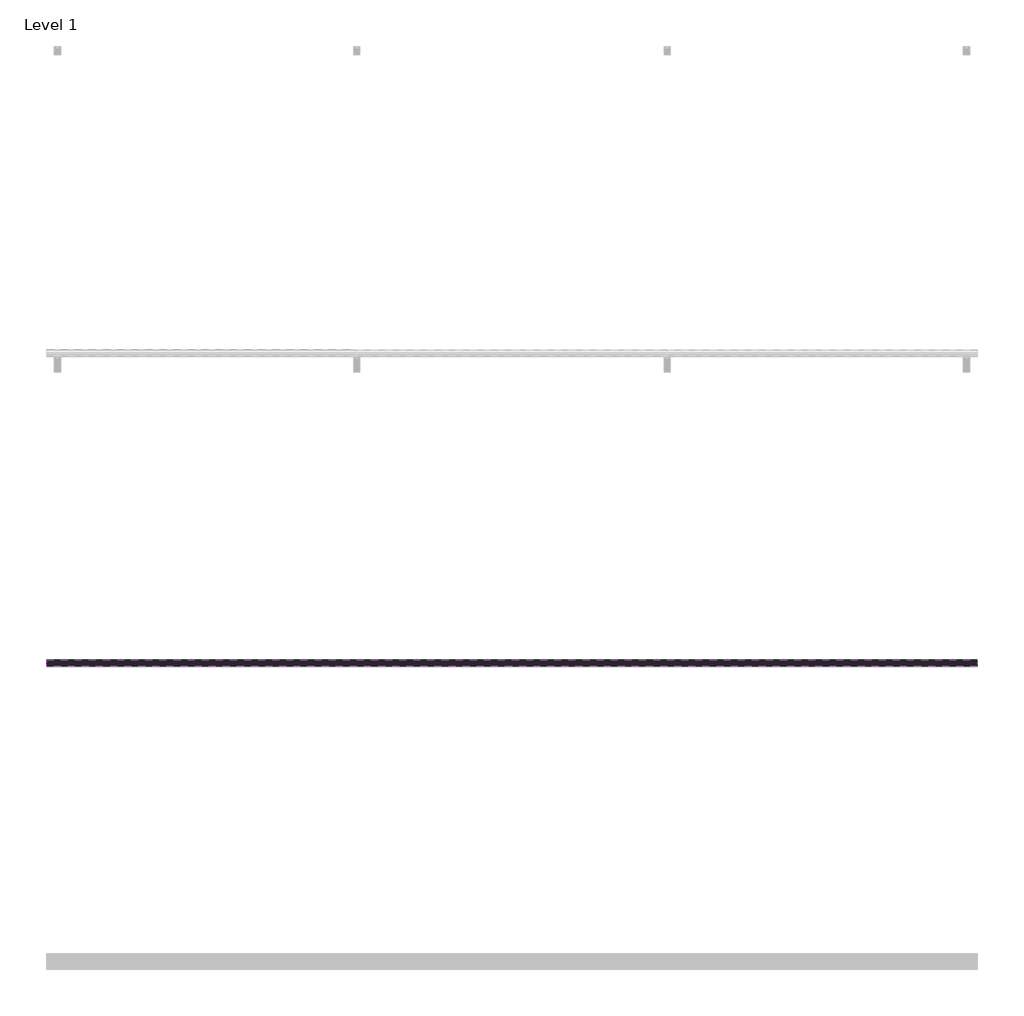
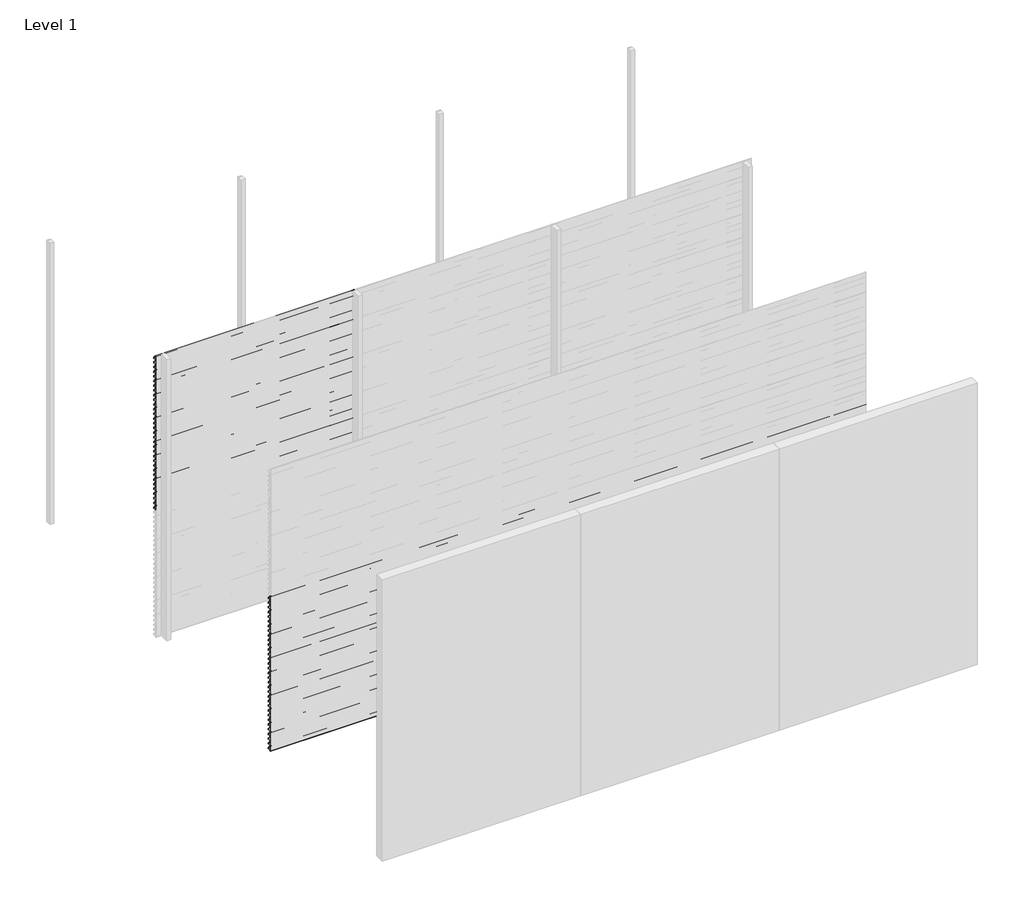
# One storey, part 14 of 38: 66 proxies.
"""IFC4 building model written with IfcOpenShell, lengths in millimetres."""

from ifc_helpers import new_model, si_unit, frame, origin, place, context, project, spatial, polyline, outline, extrude, element, save

model = new_model("IFC4")

# Units and contexts
model_context = context("Model", 3, world=origin())
ifc_project = project(units=[si_unit("LENGTHUNIT", "METRE", prefix="MILLI")], contexts=[model_context])

# Site, building, storey
site = spatial("IfcSite", under=ifc_project)
building = spatial("IfcBuilding", under=site)
storey = spatial("IfcBuildingStorey", under=building, Name="Level 1", Elevation=0.0)

# Proxies
placement = place(None, origin())
element("IfcBuildingElementProxy", 1, Name="Wall Sweeps", at=placement, inside=storey, context=model_context, shape_type="SweptSolid", body=[
    extrude(outline(polyline([(-35996.75, 3000.0), (-35996.75, 2989.19656), (-35974.6057113, 2976.4115489), (-35957.0, 2959.0472005), (-35957.0, 2944.0472005), (-35958.3, 2945.0268207), (-35958.3, 2958.5034593), (-35969.4914725, 2969.541504), (-35994.2797376, 2940.0), (-35995.9767671, 2940.0), (-35970.4200307, 2970.4573323), (-35975.3999793, 2975.3690091), (-35998.0, 2988.4171371), (-35998.0, 3000.0), (-35996.75, 3000.0)])), frame((0.0, 0.0, 0.0), z_axis=(1.0, 0.0, 0.0), x_axis=(0.0, 1.0, 0.0)), (0.0, 0.0, 1.0), 2000.0),
])
element("IfcBuildingElementProxy", 2, Name="Wall Sweeps", at=placement, inside=storey, context=model_context, shape_type="SweptSolid", body=[
    extrude(outline(polyline([(-35996.75, 2950.0), (-35996.75, 2939.19656), (-35974.6057113, 2926.4115489), (-35957.0, 2909.0472005), (-35957.0, 2894.0472005), (-35958.3, 2895.0268207), (-35958.3, 2908.5034593), (-35969.4914725, 2919.541504), (-35994.2797376, 2890.0), (-35995.9767671, 2890.0), (-35970.4200307, 2920.4573323), (-35975.3999793, 2925.3690091), (-35998.0, 2938.4171371), (-35998.0, 2950.0), (-35996.75, 2950.0)])), frame((0.0, 0.0, 0.0), z_axis=(1.0, 0.0, 0.0), x_axis=(0.0, 1.0, 0.0)), (0.0, 0.0, 1.0), 2000.0),
])
element("IfcBuildingElementProxy", 3, Name="Wall Sweeps", at=placement, inside=storey, context=model_context, shape_type="SweptSolid", body=[
    extrude(outline(polyline([(-35996.75, 2900.0), (-35996.75, 2889.19656), (-35974.6057113, 2876.4115489), (-35957.0, 2859.0472005), (-35957.0, 2844.0472005), (-35958.3, 2845.0268207), (-35958.3, 2858.5034593), (-35969.4914725, 2869.541504), (-35994.2797376, 2840.0), (-35995.9767671, 2840.0), (-35970.4200307, 2870.4573323), (-35975.3999793, 2875.3690091), (-35998.0, 2888.4171371), (-35998.0, 2900.0), (-35996.75, 2900.0)])), frame((0.0, 0.0, 0.0), z_axis=(1.0, 0.0, 0.0), x_axis=(0.0, 1.0, 0.0)), (0.0, 0.0, 1.0), 2000.0),
])
element("IfcBuildingElementProxy", 4, Name="Wall Sweeps", at=placement, inside=storey, context=model_context, shape_type="SweptSolid", body=[
    extrude(outline(polyline([(-35996.75, 2850.0), (-35996.75, 2839.19656), (-35974.6057113, 2826.4115489), (-35957.0, 2809.0472005), (-35957.0, 2794.0472005), (-35958.3, 2795.0268207), (-35958.3, 2808.5034593), (-35969.4914725, 2819.541504), (-35994.2797376, 2790.0), (-35995.9767671, 2790.0), (-35970.4200307, 2820.4573323), (-35975.3999793, 2825.3690091), (-35998.0, 2838.4171371), (-35998.0, 2850.0), (-35996.75, 2850.0)])), frame((0.0, 0.0, 0.0), z_axis=(1.0, 0.0, 0.0), x_axis=(0.0, 1.0, 0.0)), (0.0, 0.0, 1.0), 2000.0),
])
element("IfcBuildingElementProxy", 5, Name="Wall Sweeps", at=placement, inside=storey, context=model_context, shape_type="SweptSolid", body=[
    extrude(outline(polyline([(-35996.75, 2800.0), (-35996.75, 2789.19656), (-35974.6057113, 2776.4115489), (-35957.0, 2759.0472005), (-35957.0, 2744.0472005), (-35958.3, 2745.0268207), (-35958.3, 2758.5034593), (-35969.4914725, 2769.541504), (-35994.2797376, 2740.0), (-35995.9767671, 2740.0), (-35970.4200307, 2770.4573323), (-35975.3999793, 2775.3690091), (-35998.0, 2788.4171371), (-35998.0, 2800.0), (-35996.75, 2800.0)])), frame((0.0, 0.0, 0.0), z_axis=(1.0, 0.0, 0.0), x_axis=(0.0, 1.0, 0.0)), (0.0, 0.0, 1.0), 2000.0),
])
element("IfcBuildingElementProxy", 6, Name="Wall Sweeps", at=placement, inside=storey, context=model_context, shape_type="SweptSolid", body=[
    extrude(outline(polyline([(-35996.75, 2750.0), (-35996.75, 2739.19656), (-35974.6057113, 2726.4115489), (-35957.0, 2709.0472005), (-35957.0, 2694.0472005), (-35958.3, 2695.0268207), (-35958.3, 2708.5034593), (-35969.4914725, 2719.541504), (-35994.2797376, 2690.0), (-35995.9767671, 2690.0), (-35970.4200307, 2720.4573323), (-35975.3999793, 2725.3690091), (-35998.0, 2738.4171371), (-35998.0, 2750.0), (-35996.75, 2750.0)])), frame((0.0, 0.0, 0.0), z_axis=(1.0, 0.0, 0.0), x_axis=(0.0, 1.0, 0.0)), (0.0, 0.0, 1.0), 2000.0),
])
element("IfcBuildingElementProxy", 7, Name="Wall Sweeps", at=placement, inside=storey, context=model_context, shape_type="SweptSolid", body=[
    extrude(outline(polyline([(-35996.75, 2700.0), (-35996.75, 2689.19656), (-35974.6057113, 2676.4115489), (-35957.0, 2659.0472005), (-35957.0, 2644.0472005), (-35958.3, 2645.0268207), (-35958.3, 2658.5034593), (-35969.4914725, 2669.541504), (-35994.2797376, 2640.0), (-35995.9767671, 2640.0), (-35970.4200307, 2670.4573323), (-35975.3999793, 2675.3690091), (-35998.0, 2688.4171371), (-35998.0, 2700.0), (-35996.75, 2700.0)])), frame((0.0, 0.0, 0.0), z_axis=(1.0, 0.0, 0.0), x_axis=(0.0, 1.0, 0.0)), (0.0, 0.0, 1.0), 2000.0),
])
element("IfcBuildingElementProxy", 8, Name="Wall Sweeps", at=placement, inside=storey, context=model_context, shape_type="SweptSolid", body=[
    extrude(outline(polyline([(-35996.75, 2650.0), (-35996.75, 2639.19656), (-35974.6057113, 2626.4115489), (-35957.0, 2609.0472005), (-35957.0, 2594.0472005), (-35958.3, 2595.0268207), (-35958.3, 2608.5034593), (-35969.4914725, 2619.541504), (-35994.2797376, 2590.0), (-35995.9767671, 2590.0), (-35970.4200307, 2620.4573323), (-35975.3999793, 2625.3690091), (-35998.0, 2638.4171371), (-35998.0, 2650.0), (-35996.75, 2650.0)])), frame((0.0, 0.0, 0.0), z_axis=(1.0, 0.0, 0.0), x_axis=(0.0, 1.0, 0.0)), (0.0, 0.0, 1.0), 2000.0),
])
element("IfcBuildingElementProxy", 9, Name="Wall Sweeps", at=placement, inside=storey, context=model_context, shape_type="SweptSolid", body=[
    extrude(outline(polyline([(-35996.75, 2600.0), (-35996.75, 2589.19656), (-35974.6057113, 2576.4115489), (-35957.0, 2559.0472005), (-35957.0, 2544.0472005), (-35958.3, 2545.0268207), (-35958.3, 2558.5034593), (-35969.4914725, 2569.541504), (-35994.2797376, 2540.0), (-35995.9767671, 2540.0), (-35970.4200307, 2570.4573323), (-35975.3999793, 2575.3690091), (-35998.0, 2588.4171371), (-35998.0, 2600.0), (-35996.75, 2600.0)])), frame((0.0, 0.0, 0.0), z_axis=(1.0, 0.0, 0.0), x_axis=(0.0, 1.0, 0.0)), (0.0, 0.0, 1.0), 2000.0),
])
element("IfcBuildingElementProxy", 10, Name="Wall Sweeps", at=placement, inside=storey, context=model_context, shape_type="SweptSolid", body=[
    extrude(outline(polyline([(-35996.75, 2550.0), (-35996.75, 2539.19656), (-35974.6057113, 2526.4115489), (-35957.0, 2509.0472005), (-35957.0, 2494.0472005), (-35958.3, 2495.0268207), (-35958.3, 2508.5034593), (-35969.4914725, 2519.541504), (-35994.2797376, 2490.0), (-35995.9767671, 2490.0), (-35970.4200307, 2520.4573323), (-35975.3999793, 2525.3690091), (-35998.0, 2538.4171371), (-35998.0, 2550.0), (-35996.75, 2550.0)])), frame((0.0, 0.0, 0.0), z_axis=(1.0, 0.0, 0.0), x_axis=(0.0, 1.0, 0.0)), (0.0, 0.0, 1.0), 2000.0),
])
element("IfcBuildingElementProxy", 11, Name="Wall Sweeps", at=placement, inside=storey, context=model_context, shape_type="SweptSolid", body=[
    extrude(outline(polyline([(-35996.75, 2500.0), (-35996.75, 2489.19656), (-35974.6057113, 2476.4115489), (-35957.0, 2459.0472005), (-35957.0, 2444.0472005), (-35958.3, 2445.0268207), (-35958.3, 2458.5034593), (-35969.4914725, 2469.541504), (-35994.2797376, 2440.0), (-35995.9767671, 2440.0), (-35970.4200307, 2470.4573323), (-35975.3999793, 2475.3690091), (-35998.0, 2488.4171371), (-35998.0, 2500.0), (-35996.75, 2500.0)])), frame((0.0, 0.0, 0.0), z_axis=(1.0, 0.0, 0.0), x_axis=(0.0, 1.0, 0.0)), (0.0, 0.0, 1.0), 2000.0),
])
element("IfcBuildingElementProxy", 12, Name="Wall Sweeps", at=placement, inside=storey, context=model_context, shape_type="SweptSolid", body=[
    extrude(outline(polyline([(-35996.75, 2450.0), (-35996.75, 2439.19656), (-35974.6057113, 2426.4115489), (-35957.0, 2409.0472005), (-35957.0, 2394.0472005), (-35958.3, 2395.0268207), (-35958.3, 2408.5034593), (-35969.4914725, 2419.541504), (-35994.2797376, 2390.0), (-35995.9767671, 2390.0), (-35970.4200307, 2420.4573323), (-35975.3999793, 2425.3690091), (-35998.0, 2438.4171371), (-35998.0, 2450.0), (-35996.75, 2450.0)])), frame((0.0, 0.0, 0.0), z_axis=(1.0, 0.0, 0.0), x_axis=(0.0, 1.0, 0.0)), (0.0, 0.0, 1.0), 2000.0),
])
element("IfcBuildingElementProxy", 13, Name="Wall Sweeps", at=placement, inside=storey, context=model_context, shape_type="SweptSolid", body=[
    extrude(outline(polyline([(-35996.75, 2400.0), (-35996.75, 2389.19656), (-35974.6057113, 2376.4115489), (-35957.0, 2359.0472005), (-35957.0, 2344.0472005), (-35958.3, 2345.0268207), (-35958.3, 2358.5034593), (-35969.4914725, 2369.541504), (-35994.2797376, 2340.0), (-35995.9767671, 2340.0), (-35970.4200307, 2370.4573323), (-35975.3999793, 2375.3690091), (-35998.0, 2388.4171371), (-35998.0, 2400.0), (-35996.75, 2400.0)])), frame((0.0, 0.0, 0.0), z_axis=(1.0, 0.0, 0.0), x_axis=(0.0, 1.0, 0.0)), (0.0, 0.0, 1.0), 2000.0),
])
element("IfcBuildingElementProxy", 14, Name="Wall Sweeps", at=placement, inside=storey, context=model_context, shape_type="SweptSolid", body=[
    extrude(outline(polyline([(-35996.75, 2350.0), (-35996.75, 2339.19656), (-35974.6057113, 2326.4115489), (-35957.0, 2309.0472005), (-35957.0, 2294.0472005), (-35958.3, 2295.0268207), (-35958.3, 2308.5034593), (-35969.4914725, 2319.541504), (-35994.2797376, 2290.0), (-35995.9767671, 2290.0), (-35970.4200307, 2320.4573323), (-35975.3999793, 2325.3690091), (-35998.0, 2338.4171371), (-35998.0, 2350.0), (-35996.75, 2350.0)])), frame((0.0, 0.0, 0.0), z_axis=(1.0, 0.0, 0.0), x_axis=(0.0, 1.0, 0.0)), (0.0, 0.0, 1.0), 2000.0),
])
element("IfcBuildingElementProxy", 15, Name="Wall Sweeps", at=placement, inside=storey, context=model_context, shape_type="SweptSolid", body=[
    extrude(outline(polyline([(-35996.75, 2300.0), (-35996.75, 2289.19656), (-35974.6057113, 2276.4115489), (-35957.0, 2259.0472005), (-35957.0, 2244.0472005), (-35958.3, 2245.0268207), (-35958.3, 2258.5034593), (-35969.4914725, 2269.541504), (-35994.2797376, 2240.0), (-35995.9767671, 2240.0), (-35970.4200307, 2270.4573323), (-35975.3999793, 2275.3690091), (-35998.0, 2288.4171371), (-35998.0, 2300.0), (-35996.75, 2300.0)])), frame((0.0, 0.0, 0.0), z_axis=(1.0, 0.0, 0.0), x_axis=(0.0, 1.0, 0.0)), (0.0, 0.0, 1.0), 2000.0),
])
element("IfcBuildingElementProxy", 16, Name="Wall Sweeps", at=placement, inside=storey, context=model_context, shape_type="SweptSolid", body=[
    extrude(outline(polyline([(-35996.75, 2250.0), (-35996.75, 2239.19656), (-35974.6057113, 2226.4115489), (-35957.0, 2209.0472005), (-35957.0, 2194.0472005), (-35958.3, 2195.0268207), (-35958.3, 2208.5034593), (-35969.4914725, 2219.541504), (-35994.2797376, 2190.0), (-35995.9767671, 2190.0), (-35970.4200307, 2220.4573323), (-35975.3999793, 2225.3690091), (-35998.0, 2238.4171371), (-35998.0, 2250.0), (-35996.75, 2250.0)])), frame((0.0, 0.0, 0.0), z_axis=(1.0, 0.0, 0.0), x_axis=(0.0, 1.0, 0.0)), (0.0, 0.0, 1.0), 2000.0),
])
element("IfcBuildingElementProxy", 17, Name="Wall Sweeps", at=placement, inside=storey, context=model_context, shape_type="SweptSolid", body=[
    extrude(outline(polyline([(-35996.75, 2200.0), (-35996.75, 2189.19656), (-35974.6057113, 2176.4115489), (-35957.0, 2159.0472005), (-35957.0, 2144.0472005), (-35958.3, 2145.0268207), (-35958.3, 2158.5034593), (-35969.4914725, 2169.541504), (-35994.2797376, 2140.0), (-35995.9767671, 2140.0), (-35970.4200307, 2170.4573323), (-35975.3999793, 2175.3690091), (-35998.0, 2188.4171371), (-35998.0, 2200.0), (-35996.75, 2200.0)])), frame((0.0, 0.0, 0.0), z_axis=(1.0, 0.0, 0.0), x_axis=(0.0, 1.0, 0.0)), (0.0, 0.0, 1.0), 2000.0),
])
element("IfcBuildingElementProxy", 18, Name="Wall Sweeps", at=placement, inside=storey, context=model_context, shape_type="SweptSolid", body=[
    extrude(outline(polyline([(-35996.75, 2150.0), (-35996.75, 2139.19656), (-35974.6057113, 2126.4115489), (-35957.0, 2109.0472005), (-35957.0, 2094.0472005), (-35958.3, 2095.0268207), (-35958.3, 2108.5034593), (-35969.4914725, 2119.541504), (-35994.2797376, 2090.0), (-35995.9767671, 2090.0), (-35970.4200307, 2120.4573323), (-35975.3999793, 2125.3690091), (-35998.0, 2138.4171371), (-35998.0, 2150.0), (-35996.75, 2150.0)])), frame((0.0, 0.0, 0.0), z_axis=(1.0, 0.0, 0.0), x_axis=(0.0, 1.0, 0.0)), (0.0, 0.0, 1.0), 2000.0),
])
element("IfcBuildingElementProxy", 19, Name="Wall Sweeps", at=placement, inside=storey, context=model_context, shape_type="SweptSolid", body=[
    extrude(outline(polyline([(-35996.75, 2100.0), (-35996.75, 2089.19656), (-35974.6057113, 2076.4115489), (-35957.0, 2059.0472005), (-35957.0, 2044.0472005), (-35958.3, 2045.0268207), (-35958.3, 2058.5034593), (-35969.4914725, 2069.541504), (-35994.2797376, 2040.0), (-35995.9767671, 2040.0), (-35970.4200307, 2070.4573323), (-35975.3999793, 2075.3690091), (-35998.0, 2088.4171371), (-35998.0, 2100.0), (-35996.75, 2100.0)])), frame((0.0, 0.0, 0.0), z_axis=(1.0, 0.0, 0.0), x_axis=(0.0, 1.0, 0.0)), (0.0, 0.0, 1.0), 2000.0),
])
element("IfcBuildingElementProxy", 20, Name="Wall Sweeps", at=placement, inside=storey, context=model_context, shape_type="SweptSolid", body=[
    extrude(outline(polyline([(-35996.75, 2050.0), (-35996.75, 2039.19656), (-35974.6057113, 2026.4115489), (-35957.0, 2009.0472005), (-35957.0, 1994.0472005), (-35958.3, 1995.0268207), (-35958.3, 2008.5034593), (-35969.4914725, 2019.541504), (-35994.2797376, 1990.0), (-35995.9767671, 1990.0), (-35970.4200307, 2020.4573323), (-35975.3999793, 2025.3690091), (-35998.0, 2038.4171371), (-35998.0, 2050.0), (-35996.75, 2050.0)])), frame((0.0, 0.0, 0.0), z_axis=(1.0, 0.0, 0.0), x_axis=(0.0, 1.0, 0.0)), (0.0, 0.0, 1.0), 2000.0),
])
element("IfcBuildingElementProxy", 21, Name="Wall Sweeps", at=placement, inside=storey, context=model_context, shape_type="SweptSolid", body=[
    extrude(outline(polyline([(-35996.75, 2000.0), (-35996.75, 1989.19656), (-35974.6057113, 1976.4115489), (-35957.0, 1959.0472005), (-35957.0, 1944.0472005), (-35958.3, 1945.0268207), (-35958.3, 1958.5034593), (-35969.4914725, 1969.541504), (-35994.2797376, 1940.0), (-35995.9767671, 1940.0), (-35970.4200307, 1970.4573323), (-35975.3999793, 1975.3690091), (-35998.0, 1988.4171371), (-35998.0, 2000.0), (-35996.75, 2000.0)])), frame((0.0, 0.0, 0.0), z_axis=(1.0, 0.0, 0.0), x_axis=(0.0, 1.0, 0.0)), (0.0, 0.0, 1.0), 2000.0),
])
element("IfcBuildingElementProxy", 22, Name="Wall Sweeps", at=placement, inside=storey, context=model_context, shape_type="SweptSolid", body=[
    extrude(outline(polyline([(-35996.75, 1950.0), (-35996.75, 1939.19656), (-35974.6057113, 1926.4115489), (-35957.0, 1909.0472005), (-35957.0, 1894.0472005), (-35958.3, 1895.0268207), (-35958.3, 1908.5034593), (-35969.4914725, 1919.541504), (-35994.2797376, 1890.0), (-35995.9767671, 1890.0), (-35970.4200307, 1920.4573323), (-35975.3999793, 1925.3690091), (-35998.0, 1938.4171371), (-35998.0, 1950.0), (-35996.75, 1950.0)])), frame((0.0, 0.0, 0.0), z_axis=(1.0, 0.0, 0.0), x_axis=(0.0, 1.0, 0.0)), (0.0, 0.0, 1.0), 2000.0),
])
element("IfcBuildingElementProxy", 23, Name="Wall Sweeps", at=placement, inside=storey, context=model_context, shape_type="SweptSolid", body=[
    extrude(outline(polyline([(-35996.75, 1900.0), (-35996.75, 1889.19656), (-35974.6057113, 1876.4115489), (-35957.0, 1859.0472005), (-35957.0, 1844.0472005), (-35958.3, 1845.0268207), (-35958.3, 1858.5034593), (-35969.4914725, 1869.541504), (-35994.2797376, 1840.0), (-35995.9767671, 1840.0), (-35970.4200307, 1870.4573323), (-35975.3999793, 1875.3690091), (-35998.0, 1888.4171371), (-35998.0, 1900.0), (-35996.75, 1900.0)])), frame((0.0, 0.0, 0.0), z_axis=(1.0, 0.0, 0.0), x_axis=(0.0, 1.0, 0.0)), (0.0, 0.0, 1.0), 2000.0),
])
element("IfcBuildingElementProxy", 24, Name="Wall Sweeps", at=placement, inside=storey, context=model_context, shape_type="SweptSolid", body=[
    extrude(outline(polyline([(-35996.75, 1850.0), (-35996.75, 1839.19656), (-35974.6057113, 1826.4115489), (-35957.0, 1809.0472005), (-35957.0, 1794.0472005), (-35958.3, 1795.0268207), (-35958.3, 1808.5034593), (-35969.4914725, 1819.541504), (-35994.2797376, 1790.0), (-35995.9767671, 1790.0), (-35970.4200307, 1820.4573323), (-35975.3999793, 1825.3690091), (-35998.0, 1838.4171371), (-35998.0, 1850.0), (-35996.75, 1850.0)])), frame((0.0, 0.0, 0.0), z_axis=(1.0, 0.0, 0.0), x_axis=(0.0, 1.0, 0.0)), (0.0, 0.0, 1.0), 2000.0),
])
element("IfcBuildingElementProxy", 25, Name="Wall Sweeps", at=placement, inside=storey, context=model_context, shape_type="SweptSolid", body=[
    extrude(outline(polyline([(-35996.75, 1800.0), (-35996.75, 1789.19656), (-35974.6057113, 1776.4115489), (-35957.0, 1759.0472005), (-35957.0, 1744.0472005), (-35958.3, 1745.0268207), (-35958.3, 1758.5034593), (-35969.4914725, 1769.541504), (-35994.2797376, 1740.0), (-35995.9767671, 1740.0), (-35970.4200307, 1770.4573323), (-35975.3999793, 1775.3690091), (-35998.0, 1788.4171371), (-35998.0, 1800.0), (-35996.75, 1800.0)])), frame((0.0, 0.0, 0.0), z_axis=(1.0, 0.0, 0.0), x_axis=(0.0, 1.0, 0.0)), (0.0, 0.0, 1.0), 2000.0),
])
element("IfcBuildingElementProxy", 26, Name="Wall Sweeps", at=placement, inside=storey, context=model_context, shape_type="SweptSolid", body=[
    extrude(outline(polyline([(-35996.75, 1750.0), (-35996.75, 1739.19656), (-35974.6057113, 1726.4115489), (-35957.0, 1709.0472005), (-35957.0, 1694.0472005), (-35958.3, 1695.0268207), (-35958.3, 1708.5034593), (-35969.4914725, 1719.541504), (-35994.2797376, 1690.0), (-35995.9767671, 1690.0), (-35970.4200307, 1720.4573323), (-35975.3999793, 1725.3690091), (-35998.0, 1738.4171371), (-35998.0, 1750.0), (-35996.75, 1750.0)])), frame((0.0, 0.0, 0.0), z_axis=(1.0, 0.0, 0.0), x_axis=(0.0, 1.0, 0.0)), (0.0, 0.0, 1.0), 2000.0),
])
element("IfcBuildingElementProxy", 27, Name="Wall Sweeps", at=placement, inside=storey, context=model_context, shape_type="SweptSolid", body=[
    extrude(outline(polyline([(-35996.75, 1700.0), (-35996.75, 1689.19656), (-35974.6057113, 1676.4115489), (-35957.0, 1659.0472005), (-35957.0, 1644.0472005), (-35958.3, 1645.0268207), (-35958.3, 1658.5034593), (-35969.4914725, 1669.541504), (-35994.2797376, 1640.0), (-35995.9767671, 1640.0), (-35970.4200307, 1670.4573323), (-35975.3999793, 1675.3690091), (-35998.0, 1688.4171371), (-35998.0, 1700.0), (-35996.75, 1700.0)])), frame((0.0, 0.0, 0.0), z_axis=(1.0, 0.0, 0.0), x_axis=(0.0, 1.0, 0.0)), (0.0, 0.0, 1.0), 2000.0),
])
element("IfcBuildingElementProxy", 28, Name="Wall Sweeps", at=placement, inside=storey, context=model_context, shape_type="SweptSolid", body=[
    extrude(outline(polyline([(-35996.75, 1650.0), (-35996.75, 1639.19656), (-35974.6057113, 1626.4115489), (-35957.0, 1609.0472005), (-35957.0, 1594.0472005), (-35958.3, 1595.0268207), (-35958.3, 1608.5034593), (-35969.4914725, 1619.541504), (-35994.2797376, 1590.0), (-35995.9767671, 1590.0), (-35970.4200307, 1620.4573323), (-35975.3999793, 1625.3690091), (-35998.0, 1638.4171371), (-35998.0, 1650.0), (-35996.75, 1650.0)])), frame((0.0, 0.0, 0.0), z_axis=(1.0, 0.0, 0.0), x_axis=(0.0, 1.0, 0.0)), (0.0, 0.0, 1.0), 2000.0),
])
element("IfcBuildingElementProxy", 29, Name="Wall Sweeps", at=placement, inside=storey, context=model_context, shape_type="SweptSolid", body=[
    extrude(outline(polyline([(-35996.75, 1600.0), (-35996.75, 1589.19656), (-35974.6057113, 1576.4115489), (-35957.0, 1559.0472005), (-35957.0, 1544.0472005), (-35958.3, 1545.0268207), (-35958.3, 1558.5034593), (-35969.4914725, 1569.541504), (-35994.2797376, 1540.0), (-35995.9767671, 1540.0), (-35970.4200307, 1570.4573323), (-35975.3999793, 1575.3690091), (-35998.0, 1588.4171371), (-35998.0, 1600.0), (-35996.75, 1600.0)])), frame((0.0, 0.0, 0.0), z_axis=(1.0, 0.0, 0.0), x_axis=(0.0, 1.0, 0.0)), (0.0, 0.0, 1.0), 2000.0),
])
element("IfcBuildingElementProxy", 30, Name="Wall Sweeps", at=placement, inside=storey, context=model_context, shape_type="SweptSolid", body=[
    extrude(outline(polyline([(-35996.75, 1550.0), (-35996.75, 1539.19656), (-35974.6057113, 1526.4115489), (-35957.0, 1509.0472005), (-35957.0, 1494.0472005), (-35958.3, 1495.0268207), (-35958.3, 1508.5034593), (-35969.4914725, 1519.541504), (-35994.2797376, 1490.0), (-35995.9767671, 1490.0), (-35970.4200307, 1520.4573323), (-35975.3999793, 1525.3690091), (-35998.0, 1538.4171371), (-35998.0, 1550.0), (-35996.75, 1550.0)])), frame((0.0, 0.0, 0.0), z_axis=(1.0, 0.0, 0.0), x_axis=(0.0, 1.0, 0.0)), (0.0, 0.0, 1.0), 2000.0),
])
element("IfcBuildingElementProxy", 31, Name="Wall Sweeps", at=placement, inside=storey, context=model_context, shape_type="SweptSolid", body=[
    extrude(outline(polyline([(-35996.75, 1500.0), (-35996.75, 1489.19656), (-35974.6057113, 1476.4115489), (-35957.0, 1459.0472005), (-35957.0, 1444.0472005), (-35958.3, 1445.0268207), (-35958.3, 1458.5034593), (-35969.4914725, 1469.541504), (-35994.2797376, 1440.0), (-35995.9767671, 1440.0), (-35970.4200307, 1470.4573323), (-35975.3999793, 1475.3690091), (-35998.0, 1488.4171371), (-35998.0, 1500.0), (-35996.75, 1500.0)])), frame((0.0, 0.0, 0.0), z_axis=(1.0, 0.0, 0.0), x_axis=(0.0, 1.0, 0.0)), (0.0, 0.0, 1.0), 2000.0),
])
element("IfcBuildingElementProxy", 32, Name="Wall Sweeps", at=placement, inside=storey, context=model_context, shape_type="SweptSolid", body=[
    extrude(outline(polyline([(-35996.75, 1450.0), (-35996.75, 1439.19656), (-35974.6057113, 1426.4115489), (-35957.0, 1409.0472005), (-35957.0, 1394.0472005), (-35958.3, 1395.0268207), (-35958.3, 1408.5034593), (-35969.4914725, 1419.541504), (-35994.2797376, 1390.0), (-35995.9767671, 1390.0), (-35970.4200307, 1420.4573323), (-35975.3999793, 1425.3690091), (-35998.0, 1438.4171371), (-35998.0, 1450.0), (-35996.75, 1450.0)])), frame((0.0, 0.0, 0.0), z_axis=(1.0, 0.0, 0.0), x_axis=(0.0, 1.0, 0.0)), (0.0, 0.0, 1.0), 2000.0),
])
element("IfcBuildingElementProxy", 33, Name="Wall Sweeps", at=placement, inside=storey, context=model_context, shape_type="SweptSolid", body=[
    extrude(outline(polyline([(-35996.75, 1400.0), (-35996.75, 1389.19656), (-35974.6057113, 1376.4115489), (-35957.0, 1359.0472005), (-35957.0, 1344.0472005), (-35958.3, 1345.0268207), (-35958.3, 1358.5034593), (-35969.4914725, 1369.541504), (-35994.2797376, 1340.0), (-35995.9767671, 1340.0), (-35970.4200307, 1370.4573323), (-35975.3999793, 1375.3690091), (-35998.0, 1388.4171371), (-35998.0, 1400.0), (-35996.75, 1400.0)])), frame((0.0, 0.0, 0.0), z_axis=(1.0, 0.0, 0.0), x_axis=(0.0, 1.0, 0.0)), (0.0, 0.0, 1.0), 2000.0),
])
element("IfcBuildingElementProxy", 34, Name="Wall Sweeps", at=placement, inside=storey, context=model_context, shape_type="SweptSolid", body=[
    extrude(outline(polyline([(-37996.75, 1650.0), (-37996.75, 1639.19656), (-37974.6057113, 1626.4115489), (-37957.0, 1609.0472005), (-37957.0, 1594.0472005), (-37958.3, 1595.0268207), (-37958.3, 1608.5034593), (-37969.4914725, 1619.541504), (-37994.2797376, 1590.0), (-37995.9767671, 1590.0), (-37970.4200307, 1620.4573323), (-37975.3999793, 1625.3690091), (-37998.0, 1638.4171371), (-37998.0, 1650.0), (-37996.75, 1650.0)])), frame((0.0, 0.0, 0.0), z_axis=(1.0, 0.0, 0.0), x_axis=(0.0, 1.0, 0.0)), (0.0, 0.0, 1.0), 6000.0),
])
element("IfcBuildingElementProxy", 35, Name="Wall Sweeps", at=placement, inside=storey, context=model_context, shape_type="SweptSolid", body=[
    extrude(outline(polyline([(-37996.75, 1600.0), (-37996.75, 1589.19656), (-37974.6057113, 1576.4115489), (-37957.0, 1559.0472005), (-37957.0, 1544.0472005), (-37958.3, 1545.0268207), (-37958.3, 1558.5034593), (-37969.4914725, 1569.541504), (-37994.2797376, 1540.0), (-37995.9767671, 1540.0), (-37970.4200307, 1570.4573323), (-37975.3999793, 1575.3690091), (-37998.0, 1588.4171371), (-37998.0, 1600.0), (-37996.75, 1600.0)])), frame((0.0, 0.0, 0.0), z_axis=(1.0, 0.0, 0.0), x_axis=(0.0, 1.0, 0.0)), (0.0, 0.0, 1.0), 6000.0),
])
element("IfcBuildingElementProxy", 36, Name="Wall Sweeps", at=placement, inside=storey, context=model_context, shape_type="SweptSolid", body=[
    extrude(outline(polyline([(-37996.75, 1550.0), (-37996.75, 1539.19656), (-37974.6057113, 1526.4115489), (-37957.0, 1509.0472005), (-37957.0, 1494.0472005), (-37958.3, 1495.0268207), (-37958.3, 1508.5034593), (-37969.4914725, 1519.541504), (-37994.2797376, 1490.0), (-37995.9767671, 1490.0), (-37970.4200307, 1520.4573323), (-37975.3999793, 1525.3690091), (-37998.0, 1538.4171371), (-37998.0, 1550.0), (-37996.75, 1550.0)])), frame((0.0, 0.0, 0.0), z_axis=(1.0, 0.0, 0.0), x_axis=(0.0, 1.0, 0.0)), (0.0, 0.0, 1.0), 6000.0),
])
element("IfcBuildingElementProxy", 37, Name="Wall Sweeps", at=placement, inside=storey, context=model_context, shape_type="SweptSolid", body=[
    extrude(outline(polyline([(-37996.75, 1500.0), (-37996.75, 1489.19656), (-37974.6057113, 1476.4115489), (-37957.0, 1459.0472005), (-37957.0, 1444.0472005), (-37958.3, 1445.0268207), (-37958.3, 1458.5034593), (-37969.4914725, 1469.541504), (-37994.2797376, 1440.0), (-37995.9767671, 1440.0), (-37970.4200307, 1470.4573323), (-37975.3999793, 1475.3690091), (-37998.0, 1488.4171371), (-37998.0, 1500.0), (-37996.75, 1500.0)])), frame((0.0, 0.0, 0.0), z_axis=(1.0, 0.0, 0.0), x_axis=(0.0, 1.0, 0.0)), (0.0, 0.0, 1.0), 6000.0),
])
element("IfcBuildingElementProxy", 38, Name="Wall Sweeps", at=placement, inside=storey, context=model_context, shape_type="SweptSolid", body=[
    extrude(outline(polyline([(-37996.75, 1450.0), (-37996.75, 1439.19656), (-37974.6057113, 1426.4115489), (-37957.0, 1409.0472005), (-37957.0, 1394.0472005), (-37958.3, 1395.0268207), (-37958.3, 1408.5034593), (-37969.4914725, 1419.541504), (-37994.2797376, 1390.0), (-37995.9767671, 1390.0), (-37970.4200307, 1420.4573323), (-37975.3999793, 1425.3690091), (-37998.0, 1438.4171371), (-37998.0, 1450.0), (-37996.75, 1450.0)])), frame((0.0, 0.0, 0.0), z_axis=(1.0, 0.0, 0.0), x_axis=(0.0, 1.0, 0.0)), (0.0, 0.0, 1.0), 6000.0),
])
element("IfcBuildingElementProxy", 39, Name="Wall Sweeps", at=placement, inside=storey, context=model_context, shape_type="SweptSolid", body=[
    extrude(outline(polyline([(-37996.75, 1400.0), (-37996.75, 1389.19656), (-37974.6057113, 1376.4115489), (-37957.0, 1359.0472005), (-37957.0, 1344.0472005), (-37958.3, 1345.0268207), (-37958.3, 1358.5034593), (-37969.4914725, 1369.541504), (-37994.2797376, 1340.0), (-37995.9767671, 1340.0), (-37970.4200307, 1370.4573323), (-37975.3999793, 1375.3690091), (-37998.0, 1388.4171371), (-37998.0, 1400.0), (-37996.75, 1400.0)])), frame((0.0, 0.0, 0.0), z_axis=(1.0, 0.0, 0.0), x_axis=(0.0, 1.0, 0.0)), (0.0, 0.0, 1.0), 6000.0),
])
element("IfcBuildingElementProxy", 40, Name="Wall Sweeps", at=placement, inside=storey, context=model_context, shape_type="SweptSolid", body=[
    extrude(outline(polyline([(-37996.75, 1350.0), (-37996.75, 1339.19656), (-37974.6057113, 1326.4115489), (-37957.0, 1309.0472005), (-37957.0, 1294.0472005), (-37958.3, 1295.0268207), (-37958.3, 1308.5034593), (-37969.4914725, 1319.541504), (-37994.2797376, 1290.0), (-37995.9767671, 1290.0), (-37970.4200307, 1320.4573323), (-37975.3999793, 1325.3690091), (-37998.0, 1338.4171371), (-37998.0, 1350.0), (-37996.75, 1350.0)])), frame((0.0, 0.0, 0.0), z_axis=(1.0, 0.0, 0.0), x_axis=(0.0, 1.0, 0.0)), (0.0, 0.0, 1.0), 6000.0),
])
element("IfcBuildingElementProxy", 41, Name="Wall Sweeps", at=placement, inside=storey, context=model_context, shape_type="SweptSolid", body=[
    extrude(outline(polyline([(-37996.75, 1300.0), (-37996.75, 1289.19656), (-37974.6057113, 1276.4115489), (-37957.0, 1259.0472005), (-37957.0, 1244.0472005), (-37958.3, 1245.0268207), (-37958.3, 1258.5034593), (-37969.4914725, 1269.541504), (-37994.2797376, 1240.0), (-37995.9767671, 1240.0), (-37970.4200307, 1270.4573323), (-37975.3999793, 1275.3690091), (-37998.0, 1288.4171371), (-37998.0, 1300.0), (-37996.75, 1300.0)])), frame((0.0, 0.0, 0.0), z_axis=(1.0, 0.0, 0.0), x_axis=(0.0, 1.0, 0.0)), (0.0, 0.0, 1.0), 6000.0),
])
element("IfcBuildingElementProxy", 42, Name="Wall Sweeps", at=placement, inside=storey, context=model_context, shape_type="SweptSolid", body=[
    extrude(outline(polyline([(-37996.75, 1250.0), (-37996.75, 1239.19656), (-37974.6057113, 1226.4115489), (-37957.0, 1209.0472005), (-37957.0, 1194.0472005), (-37958.3, 1195.0268207), (-37958.3, 1208.5034593), (-37969.4914725, 1219.541504), (-37994.2797376, 1190.0), (-37995.9767671, 1190.0), (-37970.4200307, 1220.4573323), (-37975.3999793, 1225.3690091), (-37998.0, 1238.4171371), (-37998.0, 1250.0), (-37996.75, 1250.0)])), frame((0.0, 0.0, 0.0), z_axis=(1.0, 0.0, 0.0), x_axis=(0.0, 1.0, 0.0)), (0.0, 0.0, 1.0), 6000.0),
])
element("IfcBuildingElementProxy", 43, Name="Wall Sweeps", at=placement, inside=storey, context=model_context, shape_type="SweptSolid", body=[
    extrude(outline(polyline([(-37996.75, 1200.0), (-37996.75, 1189.19656), (-37974.6057113, 1176.4115489), (-37957.0, 1159.0472005), (-37957.0, 1144.0472005), (-37958.3, 1145.0268207), (-37958.3, 1158.5034593), (-37969.4914725, 1169.541504), (-37994.2797376, 1140.0), (-37995.9767671, 1140.0), (-37970.4200307, 1170.4573323), (-37975.3999793, 1175.3690091), (-37998.0, 1188.4171371), (-37998.0, 1200.0), (-37996.75, 1200.0)])), frame((0.0, 0.0, 0.0), z_axis=(1.0, 0.0, 0.0), x_axis=(0.0, 1.0, 0.0)), (0.0, 0.0, 1.0), 6000.0),
])
element("IfcBuildingElementProxy", 44, Name="Wall Sweeps", at=placement, inside=storey, context=model_context, shape_type="SweptSolid", body=[
    extrude(outline(polyline([(-37996.75, 1150.0), (-37996.75, 1139.19656), (-37974.6057113, 1126.4115489), (-37957.0, 1109.0472005), (-37957.0, 1094.0472005), (-37958.3, 1095.0268207), (-37958.3, 1108.5034593), (-37969.4914725, 1119.541504), (-37994.2797376, 1090.0), (-37995.9767671, 1090.0), (-37970.4200307, 1120.4573323), (-37975.3999793, 1125.3690091), (-37998.0, 1138.4171371), (-37998.0, 1150.0), (-37996.75, 1150.0)])), frame((0.0, 0.0, 0.0), z_axis=(1.0, 0.0, 0.0), x_axis=(0.0, 1.0, 0.0)), (0.0, 0.0, 1.0), 6000.0),
])
element("IfcBuildingElementProxy", 45, Name="Wall Sweeps", at=placement, inside=storey, context=model_context, shape_type="SweptSolid", body=[
    extrude(outline(polyline([(-37996.75, 1100.0), (-37996.75, 1089.19656), (-37974.6057113, 1076.4115489), (-37957.0, 1059.0472005), (-37957.0, 1044.0472005), (-37958.3, 1045.0268207), (-37958.3, 1058.5034593), (-37969.4914725, 1069.541504), (-37994.2797376, 1040.0), (-37995.9767671, 1040.0), (-37970.4200307, 1070.4573323), (-37975.3999793, 1075.3690091), (-37998.0, 1088.4171371), (-37998.0, 1100.0), (-37996.75, 1100.0)])), frame((0.0, 0.0, 0.0), z_axis=(1.0, 0.0, 0.0), x_axis=(0.0, 1.0, 0.0)), (0.0, 0.0, 1.0), 6000.0),
])
element("IfcBuildingElementProxy", 46, Name="Wall Sweeps", at=placement, inside=storey, context=model_context, shape_type="SweptSolid", body=[
    extrude(outline(polyline([(-37996.75, 1050.0), (-37996.75, 1039.19656), (-37974.6057113, 1026.4115489), (-37957.0, 1009.0472005), (-37957.0, 994.0472005), (-37958.3, 995.0268207), (-37958.3, 1008.5034593), (-37969.4914725, 1019.541504), (-37994.2797376, 990.0), (-37995.9767671, 990.0), (-37970.4200307, 1020.4573323), (-37975.3999793, 1025.3690091), (-37998.0, 1038.4171371), (-37998.0, 1050.0), (-37996.75, 1050.0)])), frame((0.0, 0.0, 0.0), z_axis=(1.0, 0.0, 0.0), x_axis=(0.0, 1.0, 0.0)), (0.0, 0.0, 1.0), 6000.0),
])
element("IfcBuildingElementProxy", 47, Name="Wall Sweeps", at=placement, inside=storey, context=model_context, shape_type="SweptSolid", body=[
    extrude(outline(polyline([(-37996.75, 1000.0), (-37996.75, 989.19656), (-37974.6057113, 976.4115489), (-37957.0, 959.0472005), (-37957.0, 944.0472005), (-37958.3, 945.0268207), (-37958.3, 958.5034593), (-37969.4914725, 969.541504), (-37994.2797376, 940.0), (-37995.9767671, 940.0), (-37970.4200307, 970.4573323), (-37975.3999793, 975.3690091), (-37998.0, 988.4171371), (-37998.0, 1000.0), (-37996.75, 1000.0)])), frame((0.0, 0.0, 0.0), z_axis=(1.0, 0.0, 0.0), x_axis=(0.0, 1.0, 0.0)), (0.0, 0.0, 1.0), 6000.0),
])
element("IfcBuildingElementProxy", 48, Name="Wall Sweeps", at=placement, inside=storey, context=model_context, shape_type="SweptSolid", body=[
    extrude(outline(polyline([(-37996.75, 950.0), (-37996.75, 939.19656), (-37974.6057113, 926.4115489), (-37957.0, 909.0472005), (-37957.0, 894.0472005), (-37958.3, 895.0268207), (-37958.3, 908.5034593), (-37969.4914725, 919.541504), (-37994.2797376, 890.0), (-37995.9767671, 890.0), (-37970.4200307, 920.4573323), (-37975.3999793, 925.3690091), (-37998.0, 938.4171371), (-37998.0, 950.0), (-37996.75, 950.0)])), frame((0.0, 0.0, 0.0), z_axis=(1.0, 0.0, 0.0), x_axis=(0.0, 1.0, 0.0)), (0.0, 0.0, 1.0), 6000.0),
])
element("IfcBuildingElementProxy", 49, Name="Wall Sweeps", at=placement, inside=storey, context=model_context, shape_type="SweptSolid", body=[
    extrude(outline(polyline([(-37996.75, 900.0), (-37996.75, 889.19656), (-37974.6057113, 876.4115489), (-37957.0, 859.0472005), (-37957.0, 844.0472005), (-37958.3, 845.0268207), (-37958.3, 858.5034593), (-37969.4914725, 869.541504), (-37994.2797376, 840.0), (-37995.9767671, 840.0), (-37970.4200307, 870.4573323), (-37975.3999793, 875.3690091), (-37998.0, 888.4171371), (-37998.0, 900.0), (-37996.75, 900.0)])), frame((0.0, 0.0, 0.0), z_axis=(1.0, 0.0, 0.0), x_axis=(0.0, 1.0, 0.0)), (0.0, 0.0, 1.0), 6000.0),
])
element("IfcBuildingElementProxy", 50, Name="Wall Sweeps", at=placement, inside=storey, context=model_context, shape_type="SweptSolid", body=[
    extrude(outline(polyline([(-37996.75, 850.0), (-37996.75, 839.19656), (-37974.6057113, 826.4115489), (-37957.0, 809.0472005), (-37957.0, 794.0472005), (-37958.3, 795.0268207), (-37958.3, 808.5034593), (-37969.4914725, 819.541504), (-37994.2797376, 790.0), (-37995.9767671, 790.0), (-37970.4200307, 820.4573323), (-37975.3999793, 825.3690091), (-37998.0, 838.4171371), (-37998.0, 850.0), (-37996.75, 850.0)])), frame((0.0, 0.0, 0.0), z_axis=(1.0, 0.0, 0.0), x_axis=(0.0, 1.0, 0.0)), (0.0, 0.0, 1.0), 6000.0),
])
element("IfcBuildingElementProxy", 51, Name="Wall Sweeps", at=placement, inside=storey, context=model_context, shape_type="SweptSolid", body=[
    extrude(outline(polyline([(-37996.75, 800.0), (-37996.75, 789.19656), (-37974.6057113, 776.4115489), (-37957.0, 759.0472005), (-37957.0, 744.0472005), (-37958.3, 745.0268207), (-37958.3, 758.5034593), (-37969.4914725, 769.541504), (-37994.2797376, 740.0), (-37995.9767671, 740.0), (-37970.4200307, 770.4573323), (-37975.3999793, 775.3690091), (-37998.0, 788.4171371), (-37998.0, 800.0), (-37996.75, 800.0)])), frame((0.0, 0.0, 0.0), z_axis=(1.0, 0.0, 0.0), x_axis=(0.0, 1.0, 0.0)), (0.0, 0.0, 1.0), 6000.0),
])
element("IfcBuildingElementProxy", 52, Name="Wall Sweeps", at=placement, inside=storey, context=model_context, shape_type="SweptSolid", body=[
    extrude(outline(polyline([(-37996.75, 750.0), (-37996.75, 739.19656), (-37974.6057113, 726.4115489), (-37957.0, 709.0472005), (-37957.0, 694.0472005), (-37958.3, 695.0268207), (-37958.3, 708.5034593), (-37969.4914725, 719.541504), (-37994.2797376, 690.0), (-37995.9767671, 690.0), (-37970.4200307, 720.4573323), (-37975.3999793, 725.3690091), (-37998.0, 738.4171371), (-37998.0, 750.0), (-37996.75, 750.0)])), frame((0.0, 0.0, 0.0), z_axis=(1.0, 0.0, 0.0), x_axis=(0.0, 1.0, 0.0)), (0.0, 0.0, 1.0), 6000.0),
])
element("IfcBuildingElementProxy", 53, Name="Wall Sweeps", at=placement, inside=storey, context=model_context, shape_type="SweptSolid", body=[
    extrude(outline(polyline([(-37996.75, 700.0), (-37996.75, 689.19656), (-37974.6057113, 676.4115489), (-37957.0, 659.0472005), (-37957.0, 644.0472005), (-37958.3, 645.0268207), (-37958.3, 658.5034593), (-37969.4914725, 669.541504), (-37994.2797376, 640.0), (-37995.9767671, 640.0), (-37970.4200307, 670.4573323), (-37975.3999793, 675.3690091), (-37998.0, 688.4171371), (-37998.0, 700.0), (-37996.75, 700.0)])), frame((0.0, 0.0, 0.0), z_axis=(1.0, 0.0, 0.0), x_axis=(0.0, 1.0, 0.0)), (0.0, 0.0, 1.0), 6000.0),
])
element("IfcBuildingElementProxy", 54, Name="Wall Sweeps", at=placement, inside=storey, context=model_context, shape_type="SweptSolid", body=[
    extrude(outline(polyline([(-37996.75, 650.0), (-37996.75, 639.19656), (-37974.6057113, 626.4115489), (-37957.0, 609.0472005), (-37957.0, 594.0472005), (-37958.3, 595.0268207), (-37958.3, 608.5034593), (-37969.4914725, 619.541504), (-37994.2797376, 590.0), (-37995.9767671, 590.0), (-37970.4200307, 620.4573323), (-37975.3999793, 625.3690091), (-37998.0, 638.4171371), (-37998.0, 650.0), (-37996.75, 650.0)])), frame((0.0, 0.0, 0.0), z_axis=(1.0, 0.0, 0.0), x_axis=(0.0, 1.0, 0.0)), (0.0, 0.0, 1.0), 6000.0),
])
element("IfcBuildingElementProxy", 55, Name="Wall Sweeps", at=placement, inside=storey, context=model_context, shape_type="SweptSolid", body=[
    extrude(outline(polyline([(-37996.75, 600.0), (-37996.75, 589.19656), (-37974.6057113, 576.4115489), (-37957.0, 559.0472005), (-37957.0, 544.0472005), (-37958.3, 545.0268207), (-37958.3, 558.5034593), (-37969.4914725, 569.541504), (-37994.2797376, 540.0), (-37995.9767671, 540.0), (-37970.4200307, 570.4573323), (-37975.3999793, 575.3690091), (-37998.0, 588.4171371), (-37998.0, 600.0), (-37996.75, 600.0)])), frame((0.0, 0.0, 0.0), z_axis=(1.0, 0.0, 0.0), x_axis=(0.0, 1.0, 0.0)), (0.0, 0.0, 1.0), 6000.0),
])
element("IfcBuildingElementProxy", 56, Name="Wall Sweeps", at=placement, inside=storey, context=model_context, shape_type="SweptSolid", body=[
    extrude(outline(polyline([(-37996.75, 550.0), (-37996.75, 539.19656), (-37974.6057113, 526.4115489), (-37957.0, 509.0472005), (-37957.0, 494.0472005), (-37958.3, 495.0268207), (-37958.3, 508.5034593), (-37969.4914725, 519.541504), (-37994.2797376, 490.0), (-37995.9767671, 490.0), (-37970.4200307, 520.4573323), (-37975.3999793, 525.3690091), (-37998.0, 538.4171371), (-37998.0, 550.0), (-37996.75, 550.0)])), frame((0.0, 0.0, 0.0), z_axis=(1.0, 0.0, 0.0), x_axis=(0.0, 1.0, 0.0)), (0.0, 0.0, 1.0), 6000.0),
])
element("IfcBuildingElementProxy", 57, Name="Wall Sweeps", at=placement, inside=storey, context=model_context, shape_type="SweptSolid", body=[
    extrude(outline(polyline([(-37996.75, 500.0), (-37996.75, 489.19656), (-37974.6057113, 476.4115489), (-37957.0, 459.0472005), (-37957.0, 444.0472005), (-37958.3, 445.0268207), (-37958.3, 458.5034593), (-37969.4914725, 469.541504), (-37994.2797376, 440.0), (-37995.9767671, 440.0), (-37970.4200307, 470.4573323), (-37975.3999793, 475.3690091), (-37998.0, 488.4171371), (-37998.0, 500.0), (-37996.75, 500.0)])), frame((0.0, 0.0, 0.0), z_axis=(1.0, 0.0, 0.0), x_axis=(0.0, 1.0, 0.0)), (0.0, 0.0, 1.0), 6000.0),
])
element("IfcBuildingElementProxy", 58, Name="Wall Sweeps", at=placement, inside=storey, context=model_context, shape_type="SweptSolid", body=[
    extrude(outline(polyline([(-37996.75, 450.0), (-37996.75, 439.19656), (-37974.6057113, 426.4115489), (-37957.0, 409.0472005), (-37957.0, 394.0472005), (-37958.3, 395.0268207), (-37958.3, 408.5034593), (-37969.4914725, 419.541504), (-37994.2797376, 390.0), (-37995.9767671, 390.0), (-37970.4200307, 420.4573323), (-37975.3999793, 425.3690091), (-37998.0, 438.4171371), (-37998.0, 450.0), (-37996.75, 450.0)])), frame((0.0, 0.0, 0.0), z_axis=(1.0, 0.0, 0.0), x_axis=(0.0, 1.0, 0.0)), (0.0, 0.0, 1.0), 6000.0),
])
element("IfcBuildingElementProxy", 59, Name="Wall Sweeps", at=placement, inside=storey, context=model_context, shape_type="SweptSolid", body=[
    extrude(outline(polyline([(-37996.75, 400.0), (-37996.75, 389.19656), (-37974.6057113, 376.4115489), (-37957.0, 359.0472005), (-37957.0, 344.0472005), (-37958.3, 345.0268207), (-37958.3, 358.5034593), (-37969.4914725, 369.541504), (-37994.2797376, 340.0), (-37995.9767671, 340.0), (-37970.4200307, 370.4573323), (-37975.3999793, 375.3690091), (-37998.0, 388.4171371), (-37998.0, 400.0), (-37996.75, 400.0)])), frame((0.0, 0.0, 0.0), z_axis=(1.0, 0.0, 0.0), x_axis=(0.0, 1.0, 0.0)), (0.0, 0.0, 1.0), 6000.0),
])
element("IfcBuildingElementProxy", 60, Name="Wall Sweeps", at=placement, inside=storey, context=model_context, shape_type="SweptSolid", body=[
    extrude(outline(polyline([(-37996.75, 350.0), (-37996.75, 339.19656), (-37974.6057113, 326.4115489), (-37957.0, 309.0472005), (-37957.0, 294.0472005), (-37958.3, 295.0268207), (-37958.3, 308.5034593), (-37969.4914725, 319.541504), (-37994.2797376, 290.0), (-37995.9767671, 290.0), (-37970.4200307, 320.4573323), (-37975.3999793, 325.3690091), (-37998.0, 338.4171371), (-37998.0, 350.0), (-37996.75, 350.0)])), frame((0.0, 0.0, 0.0), z_axis=(1.0, 0.0, 0.0), x_axis=(0.0, 1.0, 0.0)), (0.0, 0.0, 1.0), 6000.0),
])
element("IfcBuildingElementProxy", 61, Name="Wall Sweeps", at=placement, inside=storey, context=model_context, shape_type="SweptSolid", body=[
    extrude(outline(polyline([(-37996.75, 300.0), (-37996.75, 289.19656), (-37974.6057113, 276.4115489), (-37957.0, 259.0472005), (-37957.0, 244.0472005), (-37958.3, 245.0268207), (-37958.3, 258.5034593), (-37969.4914725, 269.541504), (-37994.2797376, 240.0), (-37995.9767671, 240.0), (-37970.4200307, 270.4573323), (-37975.3999793, 275.3690091), (-37998.0, 288.4171371), (-37998.0, 300.0), (-37996.75, 300.0)])), frame((0.0, 0.0, 0.0), z_axis=(1.0, 0.0, 0.0), x_axis=(0.0, 1.0, 0.0)), (0.0, 0.0, 1.0), 6000.0),
])
element("IfcBuildingElementProxy", 62, Name="Wall Sweeps", at=placement, inside=storey, context=model_context, shape_type="SweptSolid", body=[
    extrude(outline(polyline([(-37996.75, 250.0), (-37996.75, 239.19656), (-37974.6057113, 226.4115489), (-37957.0, 209.0472005), (-37957.0, 194.0472005), (-37958.3, 195.0268207), (-37958.3, 208.5034593), (-37969.4914725, 219.541504), (-37994.2797376, 190.0), (-37995.9767671, 190.0), (-37970.4200307, 220.4573323), (-37975.3999793, 225.3690091), (-37998.0, 238.4171371), (-37998.0, 250.0), (-37996.75, 250.0)])), frame((0.0, 0.0, 0.0), z_axis=(1.0, 0.0, 0.0), x_axis=(0.0, 1.0, 0.0)), (0.0, 0.0, 1.0), 6000.0),
])
element("IfcBuildingElementProxy", 63, Name="Wall Sweeps", at=placement, inside=storey, context=model_context, shape_type="SweptSolid", body=[
    extrude(outline(polyline([(-37996.75, 200.0), (-37996.75, 189.19656), (-37974.6057113, 176.4115489), (-37957.0, 159.0472005), (-37957.0, 144.0472005), (-37958.3, 145.0268207), (-37958.3, 158.5034593), (-37969.4914725, 169.541504), (-37994.2797376, 140.0), (-37995.9767671, 140.0), (-37970.4200307, 170.4573323), (-37975.3999793, 175.3690091), (-37998.0, 188.4171371), (-37998.0, 200.0), (-37996.75, 200.0)])), frame((0.0, 0.0, 0.0), z_axis=(1.0, 0.0, 0.0), x_axis=(0.0, 1.0, 0.0)), (0.0, 0.0, 1.0), 6000.0),
])
element("IfcBuildingElementProxy", 64, Name="Wall Sweeps", at=placement, inside=storey, context=model_context, shape_type="SweptSolid", body=[
    extrude(outline(polyline([(-37996.75, 150.0), (-37996.75, 139.19656), (-37974.6057113, 126.4115489), (-37957.0, 109.0472005), (-37957.0, 94.0472005), (-37958.3, 95.0268207), (-37958.3, 108.5034593), (-37969.4914725, 119.541504), (-37994.2797376, 90.0), (-37995.9767671, 90.0), (-37970.4200307, 120.4573323), (-37975.3999793, 125.3690091), (-37998.0, 138.4171371), (-37998.0, 150.0), (-37996.75, 150.0)])), frame((0.0, 0.0, 0.0), z_axis=(1.0, 0.0, 0.0), x_axis=(0.0, 1.0, 0.0)), (0.0, 0.0, 1.0), 6000.0),
])
element("IfcBuildingElementProxy", 65, Name="Wall Sweeps", at=placement, inside=storey, context=model_context, shape_type="SweptSolid", body=[
    extrude(outline(polyline([(-37996.75, 100.0), (-37996.75, 89.19656), (-37974.6057113, 76.4115489), (-37957.0, 59.0472005), (-37957.0, 44.0472005), (-37958.3, 45.0268207), (-37958.3, 58.5034593), (-37969.4914725, 69.541504), (-37994.2797376, 40.0), (-37995.9767671, 40.0), (-37970.4200307, 70.4573323), (-37975.3999793, 75.3690091), (-37998.0, 88.4171371), (-37998.0, 100.0), (-37996.75, 100.0)])), frame((0.0, 0.0, 0.0), z_axis=(1.0, 0.0, 0.0), x_axis=(0.0, 1.0, 0.0)), (0.0, 0.0, 1.0), 6000.0),
])
element("IfcBuildingElementProxy", 66, Name="Wall Sweeps", at=placement, inside=storey, context=model_context, shape_type="SweptSolid", body=[
    extrude(outline(polyline([(-37996.75, 50.0), (-37996.75, 39.19656), (-37974.6057113, 26.4115489), (-37957.0, 9.0472005), (-37957.0, -5.9527995), (-37958.3, -4.9731793), (-37958.3, 8.5034593), (-37969.4914725, 19.541504), (-37994.2797376, -10.0), (-37995.9767671, -10.0), (-37970.4200307, 20.4573323), (-37975.3999793, 25.3690091), (-37998.0, 38.4171371), (-37998.0, 50.0), (-37996.75, 50.0)])), frame((0.0, 0.0, 0.0), z_axis=(1.0, 0.0, 0.0), x_axis=(0.0, 1.0, 0.0)), (0.0, 0.0, 1.0), 6000.0),
])

save(model, "model.ifc")
